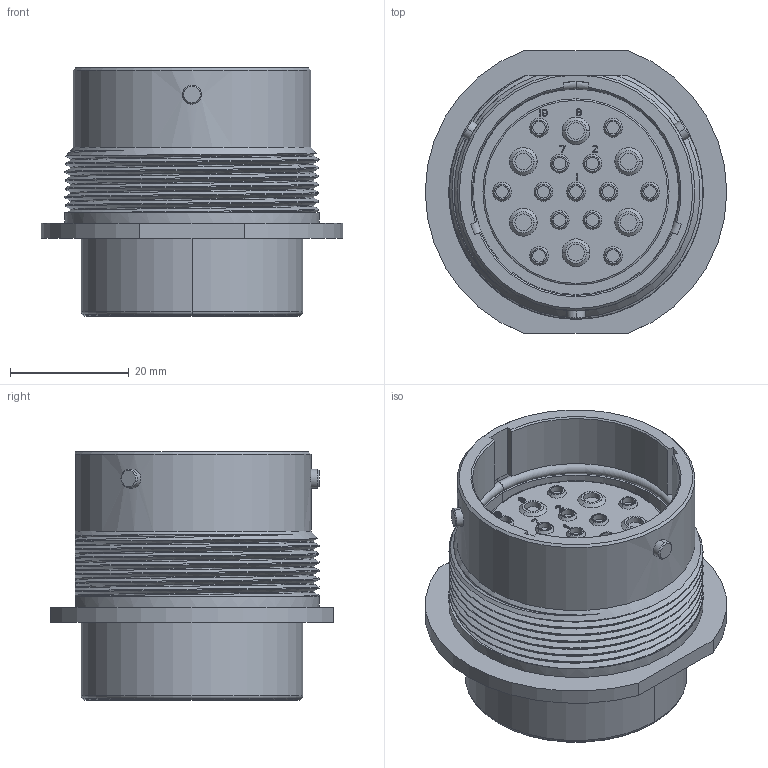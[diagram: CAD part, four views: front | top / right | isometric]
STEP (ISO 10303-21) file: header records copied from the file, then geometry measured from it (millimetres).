
FILE_DESCRIPTION((''),'2;1');
FILE_NAME('C-HD34-24-19PE','2013-03-23T',('workeradm'),('Tyco Electronics Ltd.'),'PRO/ENGINEER BY PARAMETRIC TECHNOLOGY CORPORATION, 2010430','PRO/ENGINEER BY PARAMETRIC TECHNOLOGY CORPORATION, 2010430','');
FILE_SCHEMA(('AUTOMOTIVE_DESIGN { 1 0 10303 214 1 1 1 1 }'));
Length unit declared in the file: millimetre
Products named in the file (1): C-HD34-24-19PE
Bounding box: 50.8 x 47.62 x 41.83 mm (x, y, z)
Volume: 40807 mm3; surface area: 13098.7 mm2
Topology: 1 solids, 1 shells, 567 faces, 1350 edges, 882 vertices
Faces by surface type: plane 290, cylinder 155, bspline 57, cone 53, torus 12
Entity records: 22797 total; most frequent: CARTESIAN_POINT 9307, DIRECTION 2729, ORIENTED_EDGE 2700, EDGE_CURVE 1350, AXIS2_PLACEMENT_3D 963, VERTEX_POINT 882, VECTOR 803, LINE 803
